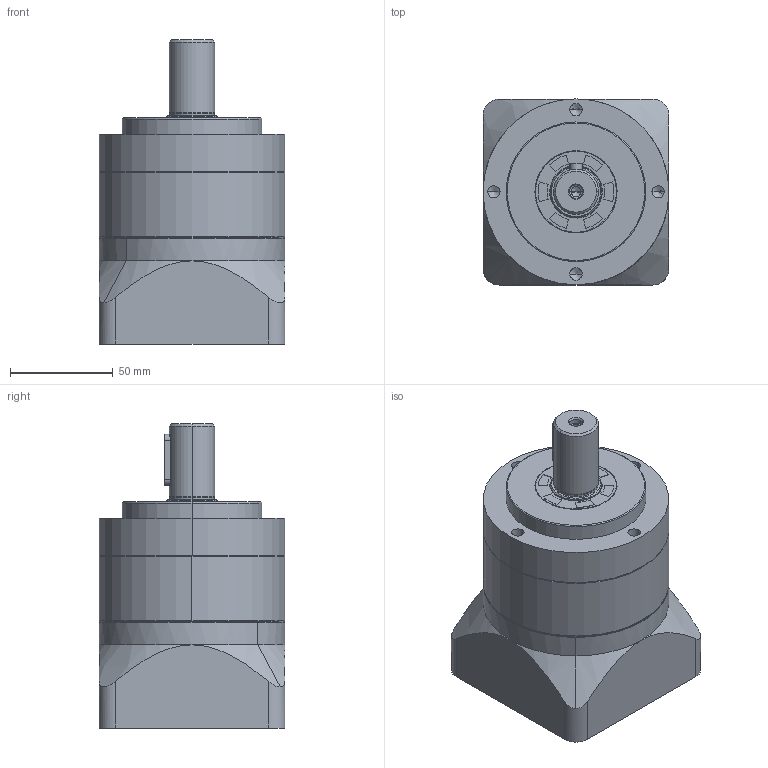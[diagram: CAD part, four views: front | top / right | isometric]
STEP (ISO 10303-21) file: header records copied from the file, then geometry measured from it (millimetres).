
FILE_DESCRIPTION (( 'STEP AP203' ), '1' );
FILE_NAME ('NA90-L1(14-60-98.7-M6).STEP', '2022-03-11T18:52:25', ( '' ), ( '' ), 'SwSTEP 2.0', 'SolidWorks 2016', '' );
FILE_SCHEMA (( 'CONFIG_CONTROL_DESIGN' ));
Length unit declared in the file: millimetre
Products named in the file (10): NA90-L1(14-60-98.7-M6); 90-(o19-14x26); NA90-(68x8-80-M6); SN90; SN90-(22x37-6x25); SN90-48x27x15-M6; SN90-(19); DP90; SN90-(60-98.7-M6); SN90-25x40x5
Assembly tree (9 placements, depth 2):
  NA90-L1(14-60-98.7-M6)
    NA90-(68x8-80-M6)
    SN90-25x40x5
    SN90-(22x37-6x25)
    SN90
    DP90
    SN90-(60-98.7-M6)
    SN90-(19)
    SN90-48x27x15-M6
    90-(o19-14x26)
Bounding box: 90.5 x 90.5 x 148.1 mm (x, y, z)
Volume: 683505.4 mm3; surface area: 132359.4 mm2
Topology: 11 solids, 11 shells, 462 faces, 1175 edges, 740 vertices
Faces by surface type: cylinder 242, plane 115, cone 67, bspline 32, torus 6
Entity records: 31007 total; most frequent: CARTESIAN_POINT 19303, ORIENTED_EDGE 2290, DIRECTION 2180, EDGE_CURVE 1145, AXIS2_PLACEMENT_3D 858, VERTEX_POINT 740, EDGE_LOOP 547, VECTOR 464
